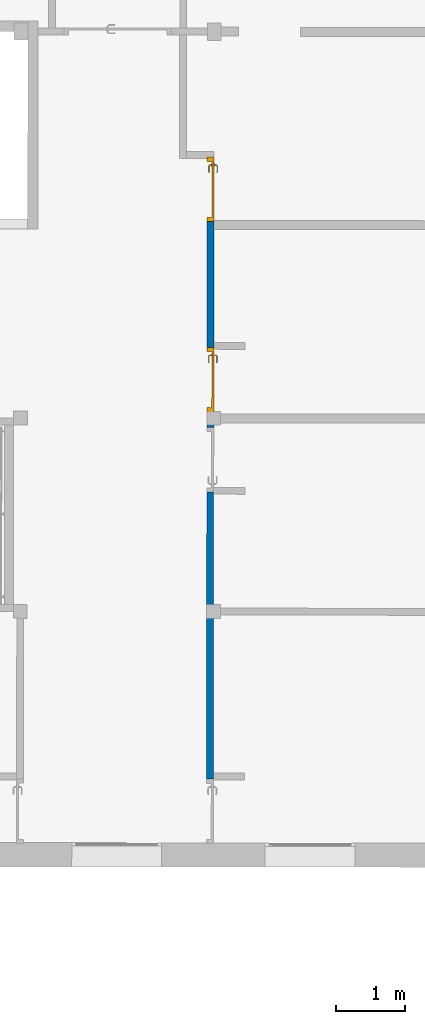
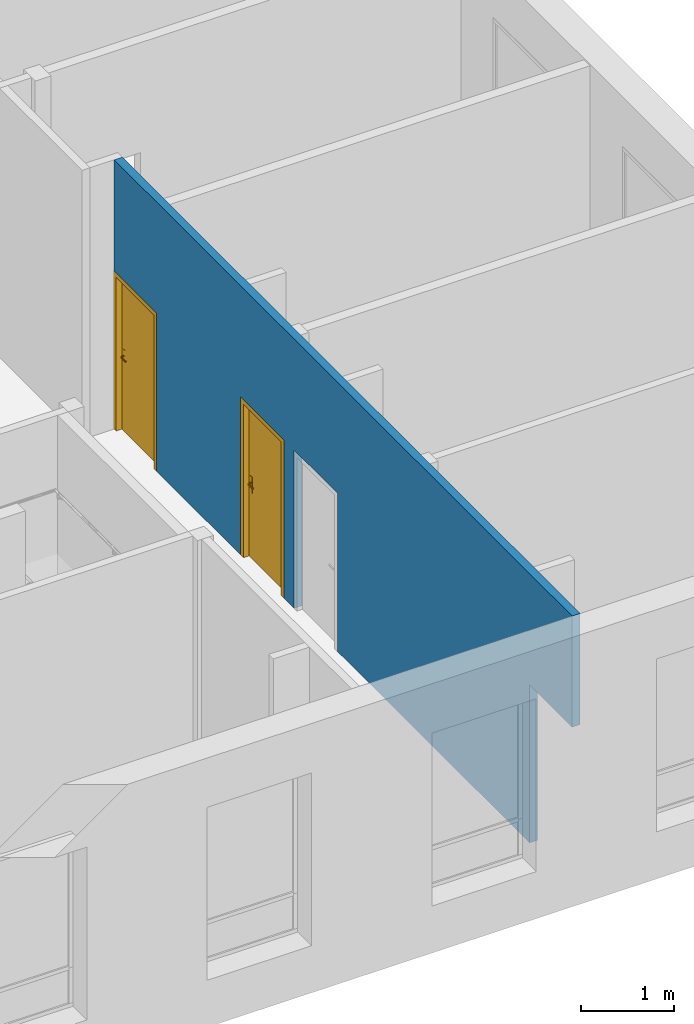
# One storey, part 72 of 101: 2 doors, 1 wall, 4 openings.
"""IFC2X3 building model written with IfcOpenShell, lengths in metres."""

from ifc_helpers import new_model, entity, si_unit, converted_unit, derived_unit, direction, frame, frame_2d, origin, place, context, subcontext, project, spatial, rectangle, extrude, faceted_brep, source, transform, mapped, material, material_list, layer, layer_set, layer_usage, type_object, type_shapes, element, fill, save


model = new_model("IFC2X3")

# Units and contexts
model_context = context("Model", 3, precision=1e-05, world=origin(), true_north=direction((6.123233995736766e-17, 1.0)))
body_context = subcontext(model_context, "Body", "Model", "MODEL_VIEW")
ifc_project = project(units=[si_unit("LENGTHUNIT", "METRE"), si_unit("AREAUNIT", "SQUARE_METRE"), converted_unit("PLANEANGLEUNIT", "DEGREE", entity("IfcPlaneAngleMeasure", 0.017453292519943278), si_unit("PLANEANGLEUNIT", "RADIAN"), dimensions=[0, 0, 0, 0, 0, 0, 0]), derived_unit("THERMALTRANSMITTANCEUNIT", [(si_unit("MASSUNIT", "GRAM", prefix="KILO"), 1), (si_unit("THERMODYNAMICTEMPERATUREUNIT", "KELVIN"), -1), (si_unit("TIMEUNIT", "SECOND"), -3)])], contexts=[model_context])

# Site, building, storey
site_placement = place(None, frame((1253.6752467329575, 2072.143113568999, 91.49999999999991), z_axis=(0.0, 0.0, 1.0), x_axis=(0.7237211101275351, 0.6900925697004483, 0.0)))
site = spatial("IfcSite", under=ifc_project, at=site_placement, Name="Surface", CompositionType="ELEMENT")
building_placement = place(site_placement, origin())
building = spatial("IfcBuilding", under=site, at=building_placement, CompositionType="ELEMENT")
storey_placement = place(building_placement, origin())
storey = spatial("IfcBuildingStorey", under=building, at=storey_placement, Name="0- Rdc", CompositionType="ELEMENT", Elevation=-5.764692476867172e-13)

# Wall, openings, doors
ifc_material_1 = material(Name="OMD_Béton blanc")
ifc_layer = layer(ifc_material_1, 0.1)
ifc_layer_set = layer_set([ifc_layer], Name="Mur de base:MUR 10")
ifc_layer_usage = layer_usage(ifc_layer_set, "AXIS2", "NEGATIVE", 0.05)
wall_type = type_object("IfcWallType", Name="Mur de base:MUR 10", PredefinedType="STANDARD", material=ifc_layer_set)
wall_placement = place(storey_placement, frame((182.31139510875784, -18.405602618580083, 0.0), z_axis=(0.0, 0.0, 1.0), x_axis=(-0.6909838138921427, -0.7228702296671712, 0.0)))
wall = element("IfcWallStandardCase", 1, at=wall_placement, inside=storey, type_object=wall_type, material=ifc_layer_usage, Name="Mur de base:MUR 10", ObjectType="Mur de base:MUR 10", context=body_context, shape_type="SweptSolid", body=[
    extrude(rectangle(XDim=9.914999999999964, YDim=0.10000000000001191, at=frame_2d((4.957499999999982, 2.4424906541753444e-15), x_axis=(-1.0, 0.0))), origin(), (0.0, 0.0, 1.0), 3.5499999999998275),
])
opening_1_placement = place(wall_placement, frame((-0.01749999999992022, -0.04999999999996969, 0.0)))
opening_1 = element("IfcOpeningElement", 2, at=opening_1_placement, cuts=wall, Name="OMD_Porte 1V tunnel:80x204:1", ObjectType="Opening", context=body_context, shape_type="SweptSolid", body=[
    extrude(rectangle(XDim=2.0850000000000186, YDim=0.9349999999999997, at=frame_2d((1.0425000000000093, 0.46749999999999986), x_axis=(1.0, 0.0))), frame((0.0, 0.0, 0.0), z_axis=(0.0, 1.0, 0.0), x_axis=(0.0, 0.0, 1.0)), (0.0, 0.0, 1.0), 0.1),
])
opening_2_placement = place(wall_placement, frame((2.7375000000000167, -0.04999999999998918, 0.0)))
opening_2 = element("IfcOpeningElement", 3, at=opening_2_placement, cuts=wall, Name="OMD_Porte 1V tunnel:80x204:1", ObjectType="Opening", context=body_context, shape_type="SweptSolid", body=[
    extrude(rectangle(XDim=2.0850000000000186, YDim=0.9349999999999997, at=frame_2d((1.0425000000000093, 0.46749999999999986), x_axis=(1.0, 0.0))), frame((0.0, 0.0, 0.0), z_axis=(0.0, 1.0, 0.0), x_axis=(0.0, 0.0, 1.0)), (0.0, 0.0, 1.0), 0.1),
])
opening_3_placement = place(wall_placement, frame((3.8974999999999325, -0.04999999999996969, 0.0)))
element("IfcOpeningElement", 4, at=opening_3_placement, cuts=wall, Name="OMD_Porte 1V tunnel:80x204:1", ObjectType="Opening", context=body_context, shape_type="SweptSolid", body=[
    extrude(rectangle(XDim=2.0850000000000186, YDim=0.9349999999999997, at=frame_2d((1.0425000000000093, 0.46749999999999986), x_axis=(1.0, 0.0))), frame((0.0, 0.0, 0.0), z_axis=(0.0, 1.0, 0.0), x_axis=(0.0, 0.0, 1.0)), (0.0, 0.0, 1.0), 0.1),
])
opening_4_placement = place(wall_placement, frame((8.992500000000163, -0.050000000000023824, 0.0)))
element("IfcOpeningElement", 5, at=opening_4_placement, cuts=wall, Name="OMD_Porte 1V tunnel:80x204:1", ObjectType="Opening", context=body_context, shape_type="SweptSolid", body=[
    extrude(rectangle(XDim=2.0850000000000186, YDim=0.9349999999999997, at=frame_2d((1.0425000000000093, 0.46749999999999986), x_axis=(1.0, 0.0))), frame((0.0, 0.0, 0.0), z_axis=(0.0, 1.0, 0.0), x_axis=(0.0, 0.0, 1.0)), (0.0, 0.0, 1.0), 0.1),
])
ifc_material_2 = material(Name="Porte - Poignée")
ifc_material_3 = material(Name="OMD_Peinture mur")
ifc_material_4 = material(Name="OMD_Bois")
ifc_material_list = material_list([ifc_material_2, ifc_material_3, ifc_material_4])
door_style = type_object("IfcDoorStyle", Name="OMD_Porte 1V tunnel:80x204", ConstructionType="NOTDEFINED", OperationType="NOTDEFINED", ParameterTakesPrecedence=False, Sizeable=False, material=ifc_material_list)
shared_shape = source(origin(), body_context, "Body", "Brep", [
    faceted_brep([(0.8220252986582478, 0.03500000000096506, 1.0077804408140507), (0.8179747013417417, 0.03500000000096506, 1.007780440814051), (0.8139999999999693, 0.03500000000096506, 1.00699999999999), (0.8139999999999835, 0.03500000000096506, 0.9930000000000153), (0.8179747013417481, 0.03500000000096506, 0.9922195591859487), (0.8220252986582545, 0.03500000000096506, 0.9922195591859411), (0.8260000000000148, 0.03500000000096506, 0.9929999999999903), (0.826000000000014, 0.03500000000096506, 1.006999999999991), (0.8139999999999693, 0.05748520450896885, 1.00699999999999), (0.8139999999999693, 0.05748520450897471, 0.9930000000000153), (0.8179747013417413, 0.059131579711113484, 1.007780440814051), (0.8220252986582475, 0.060809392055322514, 1.0077804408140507), (0.8058389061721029, 0.07699578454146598, 1.0077804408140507), (0.8041610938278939, 0.07294518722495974, 1.007780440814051), (0.7207931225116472, 0.07294518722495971, 1.0077804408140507), (0.7191153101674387, 0.07699578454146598, 1.0077804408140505), (0.7114510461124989, 0.06933152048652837, 1.0077804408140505), (0.714315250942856, 0.0664673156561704, 1.0077804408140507), (0.8260000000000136, 0.062455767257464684, 1.006999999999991), (0.8260000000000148, 0.062455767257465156, 0.9929999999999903), (0.8220252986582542, 0.06080939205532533, 0.9922195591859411), (0.8179747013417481, 0.05913157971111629, 0.9922195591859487), (0.8041610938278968, 0.07294518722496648, 0.9922195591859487), (0.8058389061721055, 0.07699578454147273, 0.9922195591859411), (0.7191153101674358, 0.07699578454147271, 0.9922195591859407), (0.7207931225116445, 0.07294518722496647, 0.9922195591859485), (0.7143152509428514, 0.06646731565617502, 0.9922195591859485), (0.7114510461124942, 0.06933152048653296, 0.9922195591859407), (0.8025147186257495, 0.06897048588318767, 1.00699999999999), (0.8025147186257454, 0.06897048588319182, 0.9930000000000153), (0.8074852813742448, 0.08097048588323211, 1.006999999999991), (0.8074852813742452, 0.08097048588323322, 0.9929999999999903), (0.7624771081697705, 0.06897048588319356, 1.0069999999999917), (0.7224394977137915, 0.06897048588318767, 1.0069999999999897), (0.7224394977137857, 0.0689704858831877, 0.9930000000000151), (0.7624771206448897, 0.06897048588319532, 0.9930000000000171), (0.7624771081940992, 0.07512492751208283, 1.0078781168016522), (0.7573994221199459, 0.08097048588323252, 1.0069999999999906), (0.7174689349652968, 0.08097048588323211, 1.0069999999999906), (0.7675547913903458, 0.08097048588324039, 0.9929999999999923), (0.7174689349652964, 0.08097048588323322, 0.99299999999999), (0.762477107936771, 0.07512492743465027, 0.9921218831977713), (0.7086405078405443, 0.07214205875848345, 1.0069999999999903), (0.7086405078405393, 0.07214205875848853, 0.9929999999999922), (0.7171257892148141, 0.06365677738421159, 0.9930000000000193), (0.71712578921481, 0.06365677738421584, 1.0069999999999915)], [[[0, 1, 2, 3, 4, 5, 6, 7]], [[8, 9, 3, 2]], [[1, 10, 8, 2]], [[1, 0, 11, 12, 13, 10]], [[14, 15, 16, 17]], [[7, 18, 11, 0]], [[18, 7, 6, 19]], [[6, 5, 20, 19]], [[5, 4, 21, 22, 23, 20]], [[24, 25, 26, 27]], [[4, 3, 9, 21]], [[28, 29, 9, 8]], [[8, 10, 13, 28]], [[18, 30, 12, 11]], [[31, 30, 18, 19]], [[19, 20, 23, 31]], [[21, 9, 29, 22]], [[29, 28, 32, 33, 34, 35]], [[36, 32, 13]], [[37, 38, 15]], [[37, 12, 30]], [[36, 12, 37]], [[14, 32, 36]], [[36, 15, 14]], [[28, 13, 32]], [[32, 14, 33]], [[12, 36, 13]], [[15, 36, 37]], [[30, 31, 39, 40, 38, 37]], [[23, 41, 39]], [[24, 39, 41]], [[39, 31, 23]], [[39, 24, 40]], [[22, 35, 41]], [[41, 23, 22]], [[41, 35, 25]], [[35, 22, 29]], [[34, 25, 35]], [[24, 41, 25]], [[17, 16, 42, 43, 27, 26, 44, 45]], [[45, 44, 34, 33]], [[33, 14, 17, 45]], [[15, 38, 42, 16]], [[43, 42, 38, 40]], [[24, 27, 43, 40]], [[34, 44, 26, 25]]]),
    faceted_brep([(0.817974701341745, -0.004999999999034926, 1.007780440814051), (0.8220252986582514, -0.004999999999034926, 1.0077804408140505), (0.8260000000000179, -0.004999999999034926, 1.0069999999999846), (0.8260000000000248, -0.004999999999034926, 0.9929999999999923), (0.8220252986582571, -0.004999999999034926, 0.992219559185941), (0.817974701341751, -0.004999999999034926, 0.9922195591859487), (0.8139999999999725, -0.004999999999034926, 0.9930000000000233), (0.8139999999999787, -0.004999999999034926, 1.006999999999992), (0.8220252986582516, -0.03100457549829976, 1.0077804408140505), (0.8260000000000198, -0.03265095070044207, 1.0069999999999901), (0.8179747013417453, -0.02932676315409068, 1.007780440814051), (0.8042986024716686, -0.04300286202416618, 1.007780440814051), (0.8059764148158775, -0.04705345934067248, 1.0077804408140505), (0.7191424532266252, -0.04705345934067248, 1.0077804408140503), (0.7208202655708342, -0.04300286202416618, 1.0077804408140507), (0.714342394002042, -0.03652499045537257, 1.0077804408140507), (0.7114781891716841, -0.039389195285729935, 1.0077804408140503), (0.813999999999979, -0.02768038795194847, 1.006999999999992), (0.8139999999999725, -0.02768038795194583, 0.9930000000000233), (0.817974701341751, -0.029326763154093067, 0.9922195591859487), (0.8220252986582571, -0.031004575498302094, 0.992219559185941), (0.8059764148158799, -0.0470534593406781, 0.992219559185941), (0.804298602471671, -0.04300286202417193, 0.9922195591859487), (0.7208202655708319, -0.04300286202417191, 0.9922195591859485), (0.7191424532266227, -0.047053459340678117, 0.9922195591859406), (0.71147818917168, -0.03938919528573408, 0.9922195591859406), (0.7143423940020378, -0.036524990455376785, 0.9922195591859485), (0.8260000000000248, -0.032650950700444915, 0.9929999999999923), (0.807622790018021, -0.051028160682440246, 1.0069999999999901), (0.8026522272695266, -0.03902816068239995, 1.006999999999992), (0.8026522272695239, -0.03902816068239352, 0.9930000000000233), (0.8076227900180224, -0.05102816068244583, 0.9929999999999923), (0.762559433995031, -0.0451828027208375, 1.0078781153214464), (0.7676923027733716, -0.05102816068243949, 1.0069999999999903), (0.7174960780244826, -0.05102816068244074, 1.00699999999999), (0.7625594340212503, -0.03902816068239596, 1.0069999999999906), (0.7224666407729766, -0.039028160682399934, 1.0069999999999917), (0.7625594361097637, -0.03902816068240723, 0.9930000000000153), (0.7224666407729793, -0.03902816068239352, 0.9930000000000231), (0.7625594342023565, -0.04518280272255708, 0.9921218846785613), (0.7574265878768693, -0.051028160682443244, 0.9929999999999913), (0.7174960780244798, -0.05102816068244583, 0.9929999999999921), (0.7171529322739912, -0.033714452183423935, 0.9930000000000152), (0.7086676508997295, -0.04219973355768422, 0.9929999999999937), (0.7086676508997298, -0.04219973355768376, 1.0069999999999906), (0.717152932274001, -0.03371445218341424, 1.0069999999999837)], [[[0, 1, 2, 3, 4, 5, 6, 7]], [[2, 1, 8, 9]], [[1, 0, 10, 11, 12, 8]], [[13, 14, 15, 16]], [[0, 7, 17, 10]], [[18, 17, 7, 6]], [[5, 19, 18, 6]], [[5, 4, 20, 21, 22, 19]], [[23, 24, 25, 26]], [[3, 27, 20, 4]], [[9, 27, 3, 2]], [[9, 8, 12, 28]], [[10, 17, 29, 11]], [[30, 29, 17, 18]], [[18, 19, 22, 30]], [[20, 27, 31, 21]], [[28, 31, 27, 9]], [[12, 32, 33]], [[13, 33, 32]], [[33, 28, 12]], [[33, 13, 34]], [[11, 35, 32]], [[32, 12, 11]], [[32, 35, 14]], [[35, 11, 29]], [[36, 14, 35]], [[13, 32, 14]], [[29, 30, 37, 38, 36, 35]], [[39, 37, 22]], [[40, 41, 24]], [[40, 21, 31]], [[39, 21, 40]], [[23, 37, 39]], [[39, 24, 23]], [[30, 22, 37]], [[37, 23, 38]], [[21, 39, 22]], [[24, 39, 40]], [[31, 28, 33, 34, 41, 40]], [[42, 26, 25, 43, 44, 16, 15, 45]], [[13, 16, 44, 34]], [[36, 45, 15, 14]], [[42, 45, 36, 38]], [[38, 23, 26, 42]], [[24, 41, 43, 25]], [[44, 43, 41, 34]]]),
    faceted_brep([(0.8199999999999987, 0.030000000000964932, 0.8646410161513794), (0.8303527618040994, 0.03000000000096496, 0.866003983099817), (0.8399999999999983, 0.030000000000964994, 0.8700000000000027), (0.8399999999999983, 0.030000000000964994, 1.0800000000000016), (0.8303527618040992, 0.03000000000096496, 1.0839960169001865), (0.8199999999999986, 0.030000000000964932, 1.0853589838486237), (0.809647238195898, 0.030000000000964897, 1.0839960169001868), (0.7999999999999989, 0.030000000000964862, 1.0800000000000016), (0.7999999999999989, 0.030000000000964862, 0.8700000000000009), (0.8096472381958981, 0.030000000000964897, 0.8660039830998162), (0.8199999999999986, 0.03500000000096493, 1.0853589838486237), (0.8303527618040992, 0.03500000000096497, 1.0839960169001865), (0.8399999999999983, 0.035000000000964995, 1.0800000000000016), (0.8399999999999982, 0.035000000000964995, 0.8700000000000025), (0.8303527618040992, 0.03500000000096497, 0.866003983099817), (0.8199999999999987, 0.03500000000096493, 0.8646410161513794), (0.8096472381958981, 0.0350000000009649, 0.8660039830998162), (0.7999999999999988, 0.03500000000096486, 0.8700000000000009), (0.7999999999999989, 0.03500000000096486, 1.0800000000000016), (0.809647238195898, 0.0350000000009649, 1.0839960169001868)], [[[0, 1, 2, 3, 4, 5, 6, 7, 8, 9]], [[10, 11, 12, 13, 14, 15, 16, 17, 18, 19]], [[6, 19, 18, 7]], [[5, 10, 19, 6]], [[4, 11, 10, 5]], [[4, 3, 12, 11]], [[12, 3, 2, 13]], [[1, 14, 13, 2]], [[0, 15, 14, 1]], [[9, 16, 15, 0]], [[9, 8, 17, 16]], [[17, 8, 7, 18]]]),
    faceted_brep([(0.819999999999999, -0.004999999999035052, 0.8646410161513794), (0.8303527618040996, -0.0049999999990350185, 0.8660039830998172), (0.8399999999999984, -0.004999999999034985, 0.8700000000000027), (0.8399999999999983, -0.004999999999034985, 1.0800000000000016), (0.8303527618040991, -0.0049999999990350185, 1.0839960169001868), (0.8199999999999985, -0.004999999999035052, 1.0853589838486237), (0.8096472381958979, -0.004999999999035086, 1.0839960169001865), (0.7999999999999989, -0.004999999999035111, 1.0800000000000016), (0.7999999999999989, -0.004999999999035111, 0.8700000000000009), (0.8096472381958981, -0.004999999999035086, 0.8660039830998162), (0.8399999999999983, 0.0, 1.0800000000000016), (0.8399999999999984, 0.0, 0.8700000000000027), (0.8303527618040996, 0.0, 0.8660039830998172), (0.819999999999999, 0.0, 0.8646410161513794), (0.8096472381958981, 0.0, 0.8660039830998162), (0.7999999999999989, 0.0, 0.8700000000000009), (0.7999999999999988, 0.0, 1.0800000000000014), (0.8096472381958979, 0.0, 1.0839960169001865), (0.8199999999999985, 0.0, 1.0853589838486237), (0.8303527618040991, 0.0, 1.0839960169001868)], [[[0, 1, 2, 3, 4, 5, 6, 7, 8, 9]], [[10, 11, 12, 13, 14, 15, 16, 17, 18, 19]], [[1, 12, 11, 2]], [[0, 13, 12, 1]], [[9, 14, 13, 0]], [[9, 8, 15, 14]], [[15, 8, 7, 16]], [[6, 17, 16, 7]], [[5, 18, 17, 6]], [[4, 19, 18, 5]], [[4, 3, 10, 19]], [[10, 3, 2, 11]]]),
    faceted_brep([(0.89, 0.030000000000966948, 0.0), (0.89, 0.0, 0.0), (0.04500000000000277, 0.0, 0.0), (0.04500000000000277, 0.030000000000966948, 0.0), (0.89, 0.030000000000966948, 2.04), (0.89, 0.0, 2.04), (0.04500000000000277, 0.0, 2.04), (0.04500000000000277, 0.030000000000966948, 2.04)], [[[0, 1, 2, 3]], [[4, 5, 1, 0]], [[5, 6, 2, 1]], [[6, 7, 3, 2]], [[7, 4, 0, 3]], [[4, 7, 6, 5]]]),
    faceted_brep([(0.9350000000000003, 0.0, 0.0), (0.89, 0.0, 0.0), (0.8900000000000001, 0.03000000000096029, 0.0), (0.8750000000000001, 0.030000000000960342, 0.0), (0.8750000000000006, 0.10000000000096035, 0.0), (0.9350000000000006, 0.10000000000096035, 0.0), (0.9350000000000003, 0.0, 2.085), (0.0, 0.0, 2.085), (0.0, 0.0, 0.0), (0.04500000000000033, 0.0, 0.0), (0.04500000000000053, 0.0, 2.04), (0.8899999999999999, 0.0, 2.0399999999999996), (0.89, 0.030000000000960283, 2.0399999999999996), (0.0450000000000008, 0.03000000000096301, 2.0399999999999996), (0.0450000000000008, 0.030000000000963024, 0.0), (0.060000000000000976, 0.030000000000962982, 0.0), (0.060000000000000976, 0.03000000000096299, 2.0249999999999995), (0.8750000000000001, 0.03000000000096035, 2.025), (0.8750000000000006, 0.10000000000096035, 2.0250000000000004), (0.060000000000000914, 0.10000000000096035, 2.025), (0.060000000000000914, 0.10000000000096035, 0.0), (0.0, 0.10000000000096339, 0.0), (0.0, 0.10000000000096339, 2.085), (0.9350000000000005, 0.10000000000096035, 2.085)], [[[0, 1, 2, 3, 4, 5]], [[1, 0, 6, 7, 8, 9, 10, 11]], [[2, 1, 11, 12]], [[3, 2, 12, 13, 14, 15, 16, 17]], [[4, 3, 17, 18]], [[5, 4, 18, 19, 20, 21, 22, 23]], [[0, 5, 23, 6]], [[7, 22, 21, 8]], [[8, 21, 20, 15, 14, 9]], [[13, 10, 9, 14]], [[19, 16, 15, 20]], [[12, 11, 10, 13]], [[18, 17, 16, 19]], [[6, 23, 22, 7]]]),
])
type_shapes(door_style, [shared_shape])
door_1_placement = place(opening_1_placement, frame((0.9350000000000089, 0.0999999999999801, 0.0), z_axis=(0.0, 0.0, 1.0), x_axis=(-1.0, 0.0, 0.0)))
door_1 = element("IfcDoor", 6, at=door_1_placement, inside=storey, type_object=door_style, material=ifc_material_list, Name="OMD_Porte 1V tunnel:80x204", ObjectType="OMD_Porte 1V tunnel:80x204", OverallHeight=2.0850000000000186, OverallWidth=0.9350000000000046, context=body_context, shape_type="MappedRepresentation", body=[
    mapped(shared_shape, transform((0.0, 0.0, 0.0), scale=1.0)),
])
fill(opening_1, door_1)
door_2_placement = place(opening_2_placement, frame((0.9350000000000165, 0.09999999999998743, 0.0), z_axis=(0.0, 0.0, 1.0), x_axis=(-1.0, 0.0, 0.0)))
door_2 = element("IfcDoor", 7, at=door_2_placement, inside=storey, type_object=door_style, material=ifc_material_list, Name="OMD_Porte 1V tunnel:80x204", ObjectType="OMD_Porte 1V tunnel:80x204", OverallHeight=2.0850000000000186, OverallWidth=0.935000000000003, context=body_context, shape_type="MappedRepresentation", body=[
    mapped(shared_shape, transform((0.0, 0.0, 0.0), scale=1.0)),
])
fill(opening_2, door_2)

save(model, "model.ifc")
